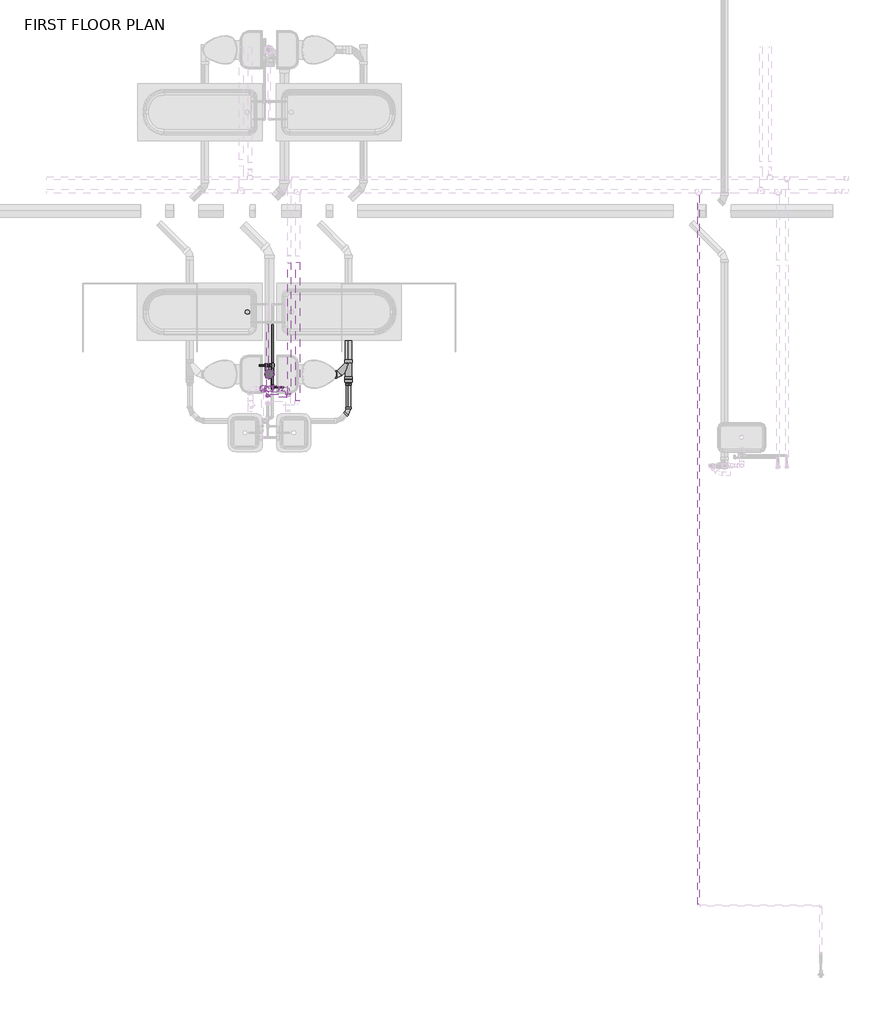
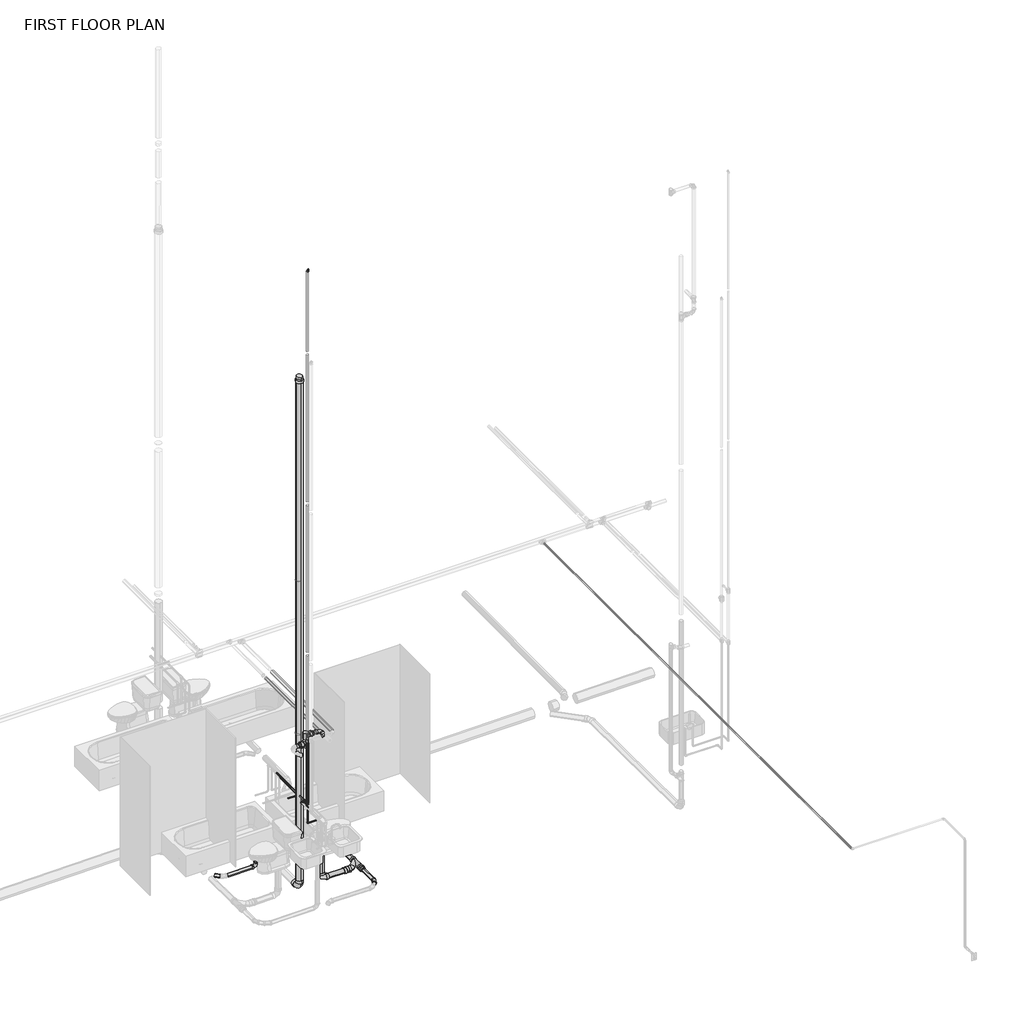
# One storey, part 6 of 29: 32 pipe fittings, 30 pipe segments.
"""IFC4 building model written with IfcOpenShell, lengths in millimetres."""

from ifc_helpers import new_model, si_unit, point, frame, frame_2d, origin, place, context, project, spatial, circle_curve, trimmed, segment, composite_curve, outline, extrude, transform, mapped, element, save
from components import bend_pvc_sch_40_dwv_standard_e287c2f6, bend_pvc_sch_40_dwv_standard_577ceb7d, bend_pvc_sch_40_dwv_standard_00a057dc, bend_pvc_sch_40_dwv_standard_020419e1, bend_pvc_sch_40_dwv_standard_48e93688, pipe_elbow_copper_k_557be1fc, pipe_elbow_copper_k_feaaf02c, pipe_elbow_copper_k_aad62f2d, pipe_tee_copper_k_7127fd44, pipe_tee_copper_k_ee363fbf, pipe_tee_copper_k_feafe2f1, pipe_tee_copper_k_8ae7f23d, pipe_tee_standard_047cd2b9, pipe_transition_copper_k_b4f16853, pipe_transition_copper_k_b63fd5dd, pipe_transition_copper_k_6d118978, pipe_transition_copper_k_614bbec4, reducer_pvc_sch_40_dwv_standard_464ee0c2, reducer_pvc_sch_40_dwv_standard_f8e5081b, reducer_pvc_sch_40_dwv_standard_091619c8, reducer_pvc_sch_40_dwv_standard_58c00515, standard_97f78eeb

model = new_model("IFC4")

# Units and contexts
model_context = context("Model", 3, world=origin())
ifc_project = project(units=[si_unit("LENGTHUNIT", "METRE", prefix="MILLI")], contexts=[model_context])

# Site, building, storey
site = spatial("IfcSite", under=ifc_project)
building = spatial("IfcBuilding", under=site)
storey = spatial("IfcBuildingStorey", under=building, Name="FIRST FLOOR PLAN", Elevation=0.0)

# Pipe fittings
placement = place(None, origin())
bend_pvc_sch_40_dwv_standard_shape = bend_pvc_sch_40_dwv_standard_e287c2f6(model_context)
element("IfcPipeFitting", 1, ObjectType="Bend - PVC - Sch 40 - DWV : Standard", at=placement, inside=storey, context=model_context, shape_type="MappedRepresentation", body=[
    mapped(bend_pvc_sch_40_dwv_standard_shape, transform((1823.8842845, 4156.8314746, -536.0576699), x_axis=(0.0, 0.0, -1.0), y_axis=(-1.0, 0.0, 0.0), z_axis=(0.0, 1.0, 0.0))),
])
bend_pvc_sch_40_dwv_standard_2_shape = bend_pvc_sch_40_dwv_standard_577ceb7d(model_context)
element("IfcPipeFitting", 2, ObjectType="Bend - PVC - Sch 40 - DWV : Standard", at=placement, inside=storey, context=model_context, shape_type="MappedRepresentation", body=[
    mapped(bend_pvc_sch_40_dwv_standard_2_shape, transform((3182.3208991, 2820.3533539, -501.633798), x_axis=(0.0, -0.9999457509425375, 0.010416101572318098), y_axis=(0.9999906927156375, -4.493975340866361e-05, -0.004314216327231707), z_axis=(0.004314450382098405, 0.010416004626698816, 0.9999364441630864))),
])
bend_pvc_sch_40_dwv_standard_3_shape = bend_pvc_sch_40_dwv_standard_00a057dc(model_context)
element("IfcPipeFitting", 3, ObjectType="Bend - PVC - Sch 40 - DWV : Standard", at=placement, inside=storey, context=model_context, shape_type="MappedRepresentation", body=[
    mapped(bend_pvc_sch_40_dwv_standard_3_shape, transform((2508.0645129, 3317.7848432, -502.4919405), x_axis=(0.0, -5.143823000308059e-07, -0.9999999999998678), y_axis=(-1.0, -5.358148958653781e-09, 0.0), z_axis=(-5.35814895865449e-09, 0.9999999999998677, -5.143823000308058e-07))),
])
bend_pvc_sch_40_dwv_standard_4_shape = bend_pvc_sch_40_dwv_standard_020419e1(model_context)
element("IfcPipeFitting", 4, ObjectType="Bend - PVC - Sch 40 - DWV : Standard", at=placement, inside=storey, context=model_context, shape_type="MappedRepresentation", body=[
    mapped(bend_pvc_sch_40_dwv_standard_4_shape, transform((2117.9058734, 3320.2843323, -535.2792916), x_axis=(0.0, 0.0, -1.0), y_axis=(0.0, -1.0, 0.0), z_axis=(-1.0, 0.0, 0.0))),
])
bend_pvc_sch_40_dwv_standard_5_shape = bend_pvc_sch_40_dwv_standard_48e93688(model_context)
element("IfcPipeFitting", 5, ObjectType="Bend - PVC - Sch 40 - DWV : Standard", at=placement, inside=storey, context=model_context, shape_type="MappedRepresentation", body=[
    mapped(bend_pvc_sch_40_dwv_standard_5_shape, transform((2372.3084875, 3124.1638117, 2451.0990858), x_axis=(0.9999989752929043, 0.0, -0.0014315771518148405), y_axis=(-1.2572891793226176e-08, 0.9999999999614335, -8.782538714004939e-06), z_axis=(0.0014315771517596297, 8.782547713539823e-06, 0.9999989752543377))),
])
element("IfcPipeFitting", 6, ObjectType="Bend - PVC - Sch 40 - DWV : Standard", at=placement, inside=storey, context=model_context, shape_type="MappedRepresentation", body=[
    mapped(bend_pvc_sch_40_dwv_standard_5_shape, transform((2372.3085485, 3124.2067027, 2451.1416909), x_axis=(0.9999989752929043, 0.0, -0.0014315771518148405), y_axis=(-1.2572891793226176e-08, 0.9999999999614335, -8.782538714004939e-06), z_axis=(0.0014315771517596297, 8.782547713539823e-06, 0.9999989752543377))),
])
pipe_elbow_copper_k_shape = pipe_elbow_copper_k_557be1fc(model_context)
element("IfcPipeFitting", 7, ObjectType="Pipe Elbow : Copper- K", at=placement, inside=storey, context=model_context, shape_type="MappedRepresentation", body=[
    mapped(pipe_elbow_copper_k_shape, transform((2383.8898661, 3029.9911151, 2413.0), x_axis=(1.0, 0.0, 0.0), y_axis=(0.0, 1.0, 0.0), z_axis=(0.0, 0.0, 1.0))),
])
pipe_elbow_copper_k_2_shape = pipe_elbow_copper_k_feaaf02c(model_context)
element("IfcPipeFitting", 8, ObjectType="Pipe Elbow : Copper- K", at=placement, inside=storey, context=model_context, shape_type="MappedRepresentation", body=[
    mapped(pipe_elbow_copper_k_2_shape, transform((2027.8209875, 3115.2451388, 1219.2), x_axis=(-1.0, 0.0, 0.0), y_axis=(0.0, -1.0, 0.0), z_axis=(0.0, 0.0, 1.0))),
])
element("IfcPipeFitting", 9, ObjectType="Pipe Elbow : Copper- K", at=placement, inside=storey, context=model_context, shape_type="MappedRepresentation", body=[
    mapped(pipe_elbow_copper_k_2_shape, transform((2096.0834875, 3029.9911151, 1219.2), x_axis=(0.0, -1.0, 0.0), y_axis=(0.0, 0.0, 1.0), z_axis=(-1.0, 0.0, 0.0))),
])
pipe_elbow_copper_k_3_shape = pipe_elbow_copper_k_aad62f2d(model_context)
element("IfcPipeFitting", 10, ObjectType="Pipe Elbow : Copper- K", at=placement, inside=storey, context=model_context, shape_type="MappedRepresentation", body=[
    mapped(pipe_elbow_copper_k_3_shape, transform((2096.0834875, 3029.9911151, 11328.4), x_axis=(0.0, 0.0, 1.0), y_axis=(1.0, 0.0, 0.0), z_axis=(0.0, 1.0, 0.0))),
])
element("IfcPipeFitting", 11, ObjectType="Pipe Elbow : Copper- K", at=placement, inside=storey, context=model_context, shape_type="MappedRepresentation", body=[
    mapped(pipe_elbow_copper_k_3_shape, transform((2159.5834875, 3144.8746817, 762.0), x_axis=(0.0, 0.0, -1.0), y_axis=(1.0, 0.0, 0.0), z_axis=(0.0, -1.0, 0.0))),
])
pipe_tee_copper_k_shape = pipe_tee_copper_k_7127fd44(model_context)
element("IfcPipeFitting", 12, ObjectType="Pipe Tee : Copper- K", at=placement, inside=storey, context=model_context, shape_type="MappedRepresentation", body=[
    mapped(pipe_tee_copper_k_shape, transform((2096.0834875, 3029.9911151, 2413.0), x_axis=(0.0, 0.0, -1.0), y_axis=(-1.0, 0.0, 0.0), z_axis=(0.0, 1.0, 0.0))),
])
pipe_tee_copper_k_2_shape = pipe_tee_copper_k_ee363fbf(model_context)
element("IfcPipeFitting", 13, ObjectType="Pipe Tee : Copper- K", at=placement, inside=storey, context=model_context, shape_type="MappedRepresentation", body=[
    mapped(pipe_tee_copper_k_2_shape, transform((2096.0834875, 3115.2451388, 1219.2), x_axis=(0.0, 1.0, 0.0), y_axis=(1.0, 0.0, 0.0), z_axis=(0.0, 0.0, -1.0))),
])
pipe_tee_copper_k_3_shape = pipe_tee_copper_k_feafe2f1(model_context)
element("IfcPipeFitting", 14, ObjectType="Pipe Tee : Copper- K", at=placement, inside=storey, context=model_context, shape_type="MappedRepresentation", body=[
    mapped(pipe_tee_copper_k_3_shape, transform((2159.5834875, 3144.8746817, 1117.6), x_axis=(0.0, -1.0, 0.0), y_axis=(0.0, 0.0, 1.0), z_axis=(-1.0, 0.0, 0.0))),
])
element("IfcPipeFitting", 15, ObjectType="Pipe Tee : Copper- K", at=placement, inside=storey, context=model_context, shape_type="MappedRepresentation", body=[
    mapped(pipe_tee_copper_k_3_shape, transform((2159.5834875, 3436.6777335, 1117.6), x_axis=(0.0, -1.0, 0.0), y_axis=(1.0, 0.0, 0.0), z_axis=(0.0, 0.0, 1.0))),
])
pipe_tee_copper_k_4_shape = pipe_tee_copper_k_8ae7f23d(model_context)
element("IfcPipeFitting", 16, ObjectType="Pipe Tee : Standard", at=placement, inside=storey, context=model_context, shape_type="MappedRepresentation", body=[
    mapped(pipe_tee_copper_k_4_shape, transform((2118.30848, 3124.1638117, 2298.6990858), x_axis=(0.0, 0.0, 1.0), y_axis=(-1.0, 0.0, 0.0), z_axis=(0.0, -1.0, 0.0))),
])
element("IfcPipeFitting", 17, ObjectType="Pipe Tee : Standard", at=placement, inside=storey, context=model_context, shape_type="MappedRepresentation", body=[
    mapped(pipe_tee_copper_k_4_shape, transform((2111.7559337, 3124.1638117, 2298.6990858), x_axis=(0.0, 0.0, 1.0), y_axis=(-1.0, 0.0, 0.0), z_axis=(0.0, -1.0, 0.0))),
])
pipe_tee_standard_shape = pipe_tee_standard_047cd2b9(model_context)
element("IfcPipeFitting", 18, ObjectType="Pipe Tee : Standard", at=placement, inside=storey, context=model_context, shape_type="MappedRepresentation", body=[
    mapped(pipe_tee_standard_shape, transform((2118.30848, 3124.1638117, 2451.4627068), x_axis=(0.0, 0.0, 1.0), y_axis=(1.0, 0.0, 0.0), z_axis=(0.0, 1.0, 0.0))),
])
element("IfcPipeFitting", 19, ObjectType="Pipe Tee : Standard", at=placement, inside=storey, context=model_context, shape_type="MappedRepresentation", body=[
    mapped(pipe_tee_standard_shape, transform((2111.7559337, 3124.1638117, 2451.4627068), x_axis=(0.0, 0.0, 1.0), y_axis=(1.0, 0.0, 0.0), z_axis=(0.0, 1.0, 0.0))),
])
pipe_transition_copper_k_shape = pipe_transition_copper_k_b4f16853(model_context)
element("IfcPipeFitting", 20, ObjectType="Pipe Transition : Copper- K", at=placement, inside=storey, context=model_context, shape_type="MappedRepresentation", body=[
    mapped(pipe_transition_copper_k_shape, transform((2159.5834875, 3466.8402335, 1117.6), x_axis=(0.0, 1.0, 0.0), y_axis=(-1.0, 0.0, 0.0), z_axis=(0.0, 0.0, 1.0))),
])
pipe_transition_copper_k_2_shape = pipe_transition_copper_k_b63fd5dd(model_context)
element("IfcPipeFitting", 21, ObjectType="Pipe Transition : Copper- K", at=placement, inside=storey, context=model_context, shape_type="MappedRepresentation", body=[
    mapped(pipe_transition_copper_k_2_shape, transform((2159.5834875, 3144.8746817, 1087.4375), x_axis=(0.0, 0.0, -1.0), y_axis=(0.0, 1.0, 0.0), z_axis=(1.0, 0.0, 0.0))),
])
element("IfcPipeFitting", 22, ObjectType="Pipe Transition : Copper- K", at=placement, inside=storey, context=model_context, shape_type="MappedRepresentation", body=[
    mapped(pipe_transition_copper_k_2_shape, transform((2129.4209875, 3436.6777335, 1117.6), x_axis=(-1.0, 0.0, 0.0), y_axis=(0.0, -1.0, 0.0), z_axis=(0.0, 0.0, 1.0))),
])
pipe_transition_copper_k_3_shape = pipe_transition_copper_k_6d118978(model_context)
element("IfcPipeFitting", 23, ObjectType="Pipe Transition : Copper- K", at=placement, inside=storey, context=model_context, shape_type="MappedRepresentation", body=[
    mapped(pipe_transition_copper_k_3_shape, transform((2096.0834875, 3029.9911151, 11300.61875), x_axis=(0.0, 0.0, 1.0), y_axis=(0.0, 1.0, 0.0), z_axis=(-1.0, 0.0, 0.0))),
])
pipe_transition_copper_k_4_shape = pipe_transition_copper_k_614bbec4(model_context)
element("IfcPipeFitting", 24, ObjectType="Pipe Transition : Copper- K", at=placement, inside=storey, context=model_context, shape_type="MappedRepresentation", body=[
    mapped(pipe_transition_copper_k_4_shape, transform((2096.0834875, 3029.9911151, 1239.8375), x_axis=(0.0, 0.0, 1.0), y_axis=(0.0, -1.0, 0.0), z_axis=(1.0, 0.0, 0.0))),
])
reducer_pvc_sch_40_dwv_standard_shape = reducer_pvc_sch_40_dwv_standard_464ee0c2(model_context)
element("IfcPipeFitting", 25, ObjectType="Reducer - PVC - Sch 40 - DWV : Standard", at=placement, inside=storey, context=model_context, shape_type="MappedRepresentation", body=[
    mapped(reducer_pvc_sch_40_dwv_standard_shape, transform((2062.74598, 3124.1638117, 2298.6990858), x_axis=(-1.0, 0.0, 0.0), y_axis=(0.0, -1.0, 0.0), z_axis=(0.0, 0.0, 1.0))),
])
element("IfcPipeFitting", 26, ObjectType="Reducer - PVC - Sch 40 - DWV : Standard", at=placement, inside=storey, context=model_context, shape_type="MappedRepresentation", body=[
    mapped(reducer_pvc_sch_40_dwv_standard_shape, transform((2173.8709231, 3124.1638117, 2451.3831648), x_axis=(0.9999989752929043, 0.0, -0.001431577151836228), y_axis=(0.0, 1.0000000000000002, 0.0), z_axis=(0.001431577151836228, 0.0, 0.9999989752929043))),
])
element("IfcPipeFitting", 27, ObjectType="Reducer - PVC - Sch 40 - DWV : Standard", at=placement, inside=storey, context=model_context, shape_type="MappedRepresentation", body=[
    mapped(reducer_pvc_sch_40_dwv_standard_shape, transform((2056.1934337, 3124.1638117, 2298.6990858), x_axis=(-1.0, 0.0, 0.0), y_axis=(0.0, -1.0, 0.0), z_axis=(0.0, 0.0, 1.0))),
])
element("IfcPipeFitting", 28, ObjectType="Reducer - PVC - Sch 40 - DWV : Standard", at=placement, inside=storey, context=model_context, shape_type="MappedRepresentation", body=[
    mapped(reducer_pvc_sch_40_dwv_standard_shape, transform((2167.3183768, 3124.1638117, 2451.3831648), x_axis=(0.9999989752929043, 0.0, -0.001431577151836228), y_axis=(0.0, 1.0000000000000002, 0.0), z_axis=(0.001431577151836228, 0.0, 0.9999989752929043))),
])
reducer_pvc_sch_40_dwv_standard_2_shape = reducer_pvc_sch_40_dwv_standard_f8e5081b(model_context)
element("IfcPipeFitting", 29, ObjectType="Reducer - PVC - Sch 40 - DWV : Standard", at=placement, inside=storey, context=model_context, shape_type="MappedRepresentation", body=[
    mapped(reducer_pvc_sch_40_dwv_standard_2_shape, transform((3182.3208991, 3250.689748, -506.1164688), x_axis=(0.0, -0.9999457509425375, 0.010416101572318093), y_axis=(0.9999457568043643, -0.00010848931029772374, -0.010414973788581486), z_axis=(0.01041553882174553, 0.010415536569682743, 0.999891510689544))),
])
reducer_pvc_sch_40_dwv_standard_3_shape = reducer_pvc_sch_40_dwv_standard_091619c8(model_context)
element("IfcPipeFitting", 30, ObjectType="Reducer - PVC - Sch 40 - DWV : Standard", at=placement, inside=storey, context=model_context, shape_type="MappedRepresentation", body=[
    mapped(reducer_pvc_sch_40_dwv_standard_3_shape, transform((2984.6942198, 3317.7848253, -504.7567642), x_axis=(-0.9999457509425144, 2.1621181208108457e-07, 0.01041610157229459), y_axis=(0.00010827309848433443, -0.9999457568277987, 0.010414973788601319), z_axis=(0.010415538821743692, 0.010415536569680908, 0.9998915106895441))),
])
reducer_pvc_sch_40_dwv_standard_4_shape = reducer_pvc_sch_40_dwv_standard_58c00515(model_context)
element("IfcPipeFitting", 31, ObjectType="Reducer - PVC - Sch 40 - DWV : Standard", at=placement, inside=storey, context=model_context, shape_type="MappedRepresentation", body=[
    mapped(reducer_pvc_sch_40_dwv_standard_4_shape, transform((2117.9266198, 3321.8387881, 9032.4261106), x_axis=(6.185067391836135e-08, 0.0, 0.9999999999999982), y_axis=(-0.9999999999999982, 0.0, 6.185067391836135e-08), z_axis=(0.0, -1.0, 0.0))),
])
standard_shape = standard_97f78eeb(model_context)
element("IfcPipeFitting", 32, ObjectType="GES Wye Combination with 8th Bend - PVC - Sch 40 - DWV : Standard", at=placement, inside=storey, context=model_context, shape_type="MappedRepresentation", body=[
    mapped(standard_shape, transform((3182.3208991, 3317.7847826, -506.8153754), x_axis=(0.0, -0.9999457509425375, 0.010416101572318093), y_axis=(-0.9999457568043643, 0.00010848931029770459, 0.010414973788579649), z_axis=(-0.010415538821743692, -0.010415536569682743, -0.999891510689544))),
])

# Pipe segments
element("IfcPipeSegment", 33, ObjectType="Copper", at=placement, inside=storey, context=model_context, shape_type="SweptSolid", body=[
    extrude(outline(composite_curve([segment(trimmed(circle_curve(frame_2d((2413.0, 2383.8898661)), 20.6375), [point((2413.0, 2363.2523661))], [point((2392.3625, 2383.8898661))], False, "CARTESIAN"), True, "CONTINUOUS"), segment(trimmed(circle_curve(frame_2d((2413.0, 2383.8898661)), 20.6375), [point((2392.3625, 2383.8898661))], [point((2413.0, 2404.5273661))], False, "CARTESIAN"), True, "CONTINUOUS"), segment(trimmed(circle_curve(frame_2d((2413.0, 2383.8898661)), 20.6375), [point((2413.0, 2404.5273661))], [point((2433.6375, 2383.8898661))], False, "CARTESIAN"), True, "CONTINUOUS"), segment(trimmed(circle_curve(frame_2d((2413.0, 2383.8898661)), 20.6375), [point((2433.6375, 2383.8898661))], [point((2413.0, 2363.2523661))], False, "CARTESIAN"), True, "CONTINUOUS")], self_intersect=False)), frame((0.0, 3060.1536151, 0.0), z_axis=(0.0, 1.0, 0.0), x_axis=(0.0, 0.0, 1.0)), (0.0, 0.0, 1.0), 1759.051298),
])
element("IfcPipeSegment", 34, ObjectType="Copper", at=placement, inside=storey, context=model_context, shape_type="SweptSolid", body=[
    extrude(outline(composite_curve([segment(trimmed(circle_curve(frame_2d((2490.6882812, 2499.3084875)), 26.9875), [point((2490.6882812, 2472.3209875))], [point((2463.7007812, 2499.3084875))], False, "CARTESIAN"), True, "CONTINUOUS"), segment(trimmed(circle_curve(frame_2d((2490.6882812, 2499.3084875)), 26.9875), [point((2463.7007812, 2499.3084875))], [point((2490.6882812, 2526.2959875))], False, "CARTESIAN"), True, "CONTINUOUS"), segment(trimmed(circle_curve(frame_2d((2490.6882812, 2499.3084875)), 26.9875), [point((2490.6882812, 2526.2959875))], [point((2517.6757812, 2499.3084875))], False, "CARTESIAN"), True, "CONTINUOUS"), segment(trimmed(circle_curve(frame_2d((2490.6882812, 2499.3084875)), 26.9875), [point((2517.6757812, 2499.3084875))], [point((2490.6882812, 2472.3209875))], False, "CARTESIAN"), True, "CONTINUOUS")], self_intersect=False)), frame((0.0, 2965.911477, 0.0), z_axis=(0.0, 1.0, 0.0), x_axis=(0.0, 0.0, 1.0)), (0.0, 0.0, 1.0), 1860.040311),
])
element("IfcPipeSegment", 35, ObjectType="Copper", at=placement, inside=storey, context=model_context, shape_type="SweptSolid", body=[
    extrude(outline(composite_curve([segment(trimmed(circle_curve(frame_2d((3029.9911151, 2413.0)), 20.6375), [point((3050.6286151, 2413.0))], [point((3029.9911151, 2392.3625))], False, "CARTESIAN"), True, "CONTINUOUS"), segment(trimmed(circle_curve(frame_2d((3029.9911151, 2413.0)), 20.6375), [point((3029.9911151, 2392.3625))], [point((3009.3536151, 2413.0))], False, "CARTESIAN"), True, "CONTINUOUS"), segment(trimmed(circle_curve(frame_2d((3029.9911151, 2413.0)), 20.6375), [point((3009.3536151, 2413.0))], [point((3029.9911151, 2433.6375))], False, "CARTESIAN"), True, "CONTINUOUS"), segment(trimmed(circle_curve(frame_2d((3029.9911151, 2413.0)), 20.6375), [point((3029.9911151, 2433.6375))], [point((3050.6286151, 2413.0))], False, "CARTESIAN"), True, "CONTINUOUS")], self_intersect=False)), frame((2132.5959875, 0.0, 0.0), z_axis=(1.0, 0.0, 0.0), x_axis=(0.0, 1.0, 0.0)), (0.0, 0.0, 1.0), 221.1313786),
])
element("IfcPipeSegment", 36, ObjectType="Copper", at=placement, inside=storey, context=model_context, shape_type="SweptSolid", body=[
    extrude(outline(composite_curve([segment(trimmed(circle_curve(frame_2d((2096.0834875, 3029.9911151)), 20.6375), [point((2075.4459875, 3029.9911151))], [point((2096.0834875, 3050.6286151))], False, "CARTESIAN"), True, "CONTINUOUS"), segment(trimmed(circle_curve(frame_2d((2096.0834875, 3029.9911151)), 20.6375), [point((2096.0834875, 3050.6286151))], [point((2116.7209875, 3029.9911151))], False, "CARTESIAN"), True, "CONTINUOUS"), segment(trimmed(circle_curve(frame_2d((2096.0834875, 3029.9911151)), 20.6375), [point((2116.7209875, 3029.9911151))], [point((2096.0834875, 3009.3536151))], False, "CARTESIAN"), True, "CONTINUOUS"), segment(trimmed(circle_curve(frame_2d((2096.0834875, 3029.9911151)), 20.6375), [point((2096.0834875, 3009.3536151))], [point((2075.4459875, 3029.9911151))], False, "CARTESIAN"), True, "CONTINUOUS")], self_intersect=False)), frame((0.0, 0.0, 9790.1125), z_axis=(0.0, 0.0, 1.0), x_axis=(1.0, 0.0, 0.0)), (0.0, 0.0, 1.0), 1510.50625),
])
element("IfcPipeSegment", 37, ObjectType="Copper", at=placement, inside=storey, context=model_context, shape_type="SweptSolid", body=[
    extrude(outline(composite_curve([segment(trimmed(circle_curve(frame_2d((2490.6882813, 7886.7826705)), 11.1125), [point((2490.6882813, 7875.6701705))], [point((2479.5757813, 7886.7826705))], False, "CARTESIAN"), True, "CONTINUOUS"), segment(trimmed(circle_curve(frame_2d((2490.6882813, 7886.7826705)), 11.1125), [point((2479.5757813, 7886.7826705))], [point((2490.6882813, 7897.8951705))], False, "CARTESIAN"), True, "CONTINUOUS"), segment(trimmed(circle_curve(frame_2d((2490.6882813, 7886.7826705)), 11.1125), [point((2490.6882813, 7897.8951705))], [point((2501.8007813, 7886.7826705))], False, "CARTESIAN"), True, "CONTINUOUS"), segment(trimmed(circle_curve(frame_2d((2490.6882813, 7886.7826705)), 11.1125), [point((2501.8007813, 7886.7826705))], [point((2490.6882813, 7875.6701705))], False, "CARTESIAN"), True, "CONTINUOUS")], self_intersect=False)), frame((0.0, -3802.3449619, 0.0), z_axis=(0.0, 1.0, 0.0), x_axis=(0.0, 0.0, 1.0)), (0.0, 0.0, 1.0), 9524.20625),
])
element("IfcPipeSegment", 38, ObjectType="Copper", at=placement, inside=storey, context=model_context, shape_type="SweptSolid", body=[
    extrude(outline(composite_curve([segment(trimmed(circle_curve(frame_2d((2096.0834875, 3029.9911151)), 20.6375), [point((2075.4459875, 3029.9911151))], [point((2096.0834875, 3050.6286151))], False, "CARTESIAN"), True, "CONTINUOUS"), segment(trimmed(circle_curve(frame_2d((2096.0834875, 3029.9911151)), 20.6375), [point((2096.0834875, 3050.6286151))], [point((2116.7209875, 3029.9911151))], False, "CARTESIAN"), True, "CONTINUOUS"), segment(trimmed(circle_curve(frame_2d((2096.0834875, 3029.9911151)), 20.6375), [point((2116.7209875, 3029.9911151))], [point((2096.0834875, 3009.3536151))], False, "CARTESIAN"), True, "CONTINUOUS"), segment(trimmed(circle_curve(frame_2d((2096.0834875, 3029.9911151)), 20.6375), [point((2096.0834875, 3009.3536151))], [point((2075.4459875, 3029.9911151))], False, "CARTESIAN"), True, "CONTINUOUS")], self_intersect=False)), frame((0.0, 0.0, 2449.5125), z_axis=(0.0, 0.0, 1.0), x_axis=(1.0, 0.0, 0.0)), (0.0, 0.0, 1.0), 1577.975),
])
element("IfcPipeSegment", 39, ObjectType="Copper", at=placement, inside=storey, context=model_context, shape_type="SweptSolid", body=[
    extrude(outline(composite_curve([segment(trimmed(circle_curve(frame_2d((3115.2451388, 1219.2)), 11.1125), [point((3104.1326388, 1219.2))], [point((3115.2451388, 1230.3125))], False, "CARTESIAN"), True, "CONTINUOUS"), segment(trimmed(circle_curve(frame_2d((3115.2451388, 1219.2)), 11.1125), [point((3115.2451388, 1230.3125))], [point((3126.3576388, 1219.2))], False, "CARTESIAN"), True, "CONTINUOUS"), segment(trimmed(circle_curve(frame_2d((3115.2451388, 1219.2)), 11.1125), [point((3126.3576388, 1219.2))], [point((3115.2451388, 1208.0875))], False, "CARTESIAN"), True, "CONTINUOUS"), segment(trimmed(circle_curve(frame_2d((3115.2451388, 1219.2)), 11.1125), [point((3115.2451388, 1208.0875))], [point((3104.1326388, 1219.2))], False, "CARTESIAN"), True, "CONTINUOUS")], self_intersect=False)), frame((2048.4584875, 0.0, 0.0), z_axis=(1.0, 0.0, 0.0), x_axis=(0.0, 1.0, 0.0)), (0.0, 0.0, 1.0), 20.6375),
])
element("IfcPipeSegment", 40, ObjectType="Copper", at=placement, inside=storey, context=model_context, shape_type="SweptSolid", body=[
    extrude(outline(composite_curve([segment(trimmed(circle_curve(frame_2d((3144.8746817, 762.0)), 7.9375), [point((3136.9371817, 762.0))], [point((3144.8746817, 769.9375))], False, "CARTESIAN"), True, "CONTINUOUS"), segment(trimmed(circle_curve(frame_2d((3144.8746817, 762.0)), 7.9375), [point((3144.8746817, 769.9375))], [point((3152.8121817, 762.0))], False, "CARTESIAN"), True, "CONTINUOUS"), segment(trimmed(circle_curve(frame_2d((3144.8746817, 762.0)), 7.9375), [point((3152.8121817, 762.0))], [point((3144.8746817, 754.0625))], False, "CARTESIAN"), True, "CONTINUOUS"), segment(trimmed(circle_curve(frame_2d((3144.8746817, 762.0)), 7.9375), [point((3144.8746817, 754.0625))], [point((3136.9371817, 762.0))], False, "CARTESIAN"), True, "CONTINUOUS")], self_intersect=False)), frame((2177.0459875, 0.0, 0.0), z_axis=(1.0, 0.0, 0.0), x_axis=(0.0, 1.0, 0.0)), (0.0, 0.0, 1.0), 134.9375),
])
element("IfcPipeSegment", 41, ObjectType="Copper", at=placement, inside=storey, context=model_context, shape_type="SweptSolid", body=[
    extrude(outline(composite_curve([segment(trimmed(circle_curve(frame_2d((2159.5834875, 3144.8746817)), 7.9375), [point((2167.5209875, 3144.8746817))], [point((2159.5834875, 3136.9371817))], False, "CARTESIAN"), True, "CONTINUOUS"), segment(trimmed(circle_curve(frame_2d((2159.5834875, 3144.8746817)), 7.9375), [point((2159.5834875, 3136.9371817))], [point((2151.6459875, 3144.8746817))], False, "CARTESIAN"), True, "CONTINUOUS"), segment(trimmed(circle_curve(frame_2d((2159.5834875, 3144.8746817)), 7.9375), [point((2151.6459875, 3144.8746817))], [point((2159.5834875, 3152.8121817))], False, "CARTESIAN"), True, "CONTINUOUS"), segment(trimmed(circle_curve(frame_2d((2159.5834875, 3144.8746817)), 7.9375), [point((2159.5834875, 3152.8121817))], [point((2167.5209875, 3144.8746817))], False, "CARTESIAN"), True, "CONTINUOUS")], self_intersect=False)), frame((0.0, 0.0, 779.4625), z_axis=(0.0, 0.0, 1.0), x_axis=(1.0, 0.0, 0.0)), (0.0, 0.0, 1.0), 300.83125),
])
element("IfcPipeSegment", 42, ObjectType="Copper", at=placement, inside=storey, context=model_context, shape_type="SweptSolid", body=[
    extrude(outline(composite_curve([segment(trimmed(circle_curve(frame_2d((3436.6777335, 1117.6)), 7.9375), [point((3444.6152335, 1117.6))], [point((3436.6777335, 1109.6625))], False, "CARTESIAN"), True, "CONTINUOUS"), segment(trimmed(circle_curve(frame_2d((3436.6777335, 1117.6)), 7.9375), [point((3436.6777335, 1109.6625))], [point((3428.7402335, 1117.6))], False, "CARTESIAN"), True, "CONTINUOUS"), segment(trimmed(circle_curve(frame_2d((3436.6777335, 1117.6)), 7.9375), [point((3428.7402335, 1117.6))], [point((3436.6777335, 1125.5375))], False, "CARTESIAN"), True, "CONTINUOUS"), segment(trimmed(circle_curve(frame_2d((3436.6777335, 1117.6)), 7.9375), [point((3436.6777335, 1125.5375))], [point((3444.6152335, 1117.6))], False, "CARTESIAN"), True, "CONTINUOUS")], self_intersect=False)), frame((1981.7834875, 0.0, 0.0), z_axis=(1.0, 0.0, 0.0), x_axis=(0.0, 1.0, 0.0)), (0.0, 0.0, 1.0), 140.49375),
])
element("IfcPipeSegment", 43, ObjectType="Copper", at=placement, inside=storey, context=model_context, shape_type="SweptSolid", body=[
    extrude(outline(composite_curve([segment(trimmed(circle_curve(frame_2d((1117.6, 2159.5834875)), 14.2875), [point((1117.6, 2173.8709875))], [point((1131.8875, 2159.5834875))], False, "CARTESIAN"), True, "CONTINUOUS"), segment(trimmed(circle_curve(frame_2d((1117.6, 2159.5834875)), 14.2875), [point((1131.8875, 2159.5834875))], [point((1117.6, 2145.2959875))], False, "CARTESIAN"), True, "CONTINUOUS"), segment(trimmed(circle_curve(frame_2d((1117.6, 2159.5834875)), 14.2875), [point((1117.6, 2145.2959875))], [point((1103.3125, 2159.5834875))], False, "CARTESIAN"), True, "CONTINUOUS"), segment(trimmed(circle_curve(frame_2d((1117.6, 2159.5834875)), 14.2875), [point((1103.3125, 2159.5834875))], [point((1117.6, 2173.8709875))], False, "CARTESIAN"), True, "CONTINUOUS")], self_intersect=False)), frame((0.0, 3175.0371817, 0.0), z_axis=(0.0, 1.0, 0.0), x_axis=(0.0, 0.0, 1.0)), (0.0, 0.0, 1.0), 231.4780518),
])
element("IfcPipeSegment", 44, ObjectType="Copper", at=placement, inside=storey, context=model_context, shape_type="SweptSolid", body=[
    extrude(outline(composite_curve([segment(trimmed(circle_curve(frame_2d((1117.6, 2159.5834875)), 11.1125), [point((1117.6, 2170.6959875))], [point((1128.7125, 2159.5834875))], False, "CARTESIAN"), True, "CONTINUOUS"), segment(trimmed(circle_curve(frame_2d((1117.6, 2159.5834875)), 11.1125), [point((1128.7125, 2159.5834875))], [point((1117.6, 2148.4709875))], False, "CARTESIAN"), True, "CONTINUOUS"), segment(trimmed(circle_curve(frame_2d((1117.6, 2159.5834875)), 11.1125), [point((1117.6, 2148.4709875))], [point((1106.4875, 2159.5834875))], False, "CARTESIAN"), True, "CONTINUOUS"), segment(trimmed(circle_curve(frame_2d((1117.6, 2159.5834875)), 11.1125), [point((1106.4875, 2159.5834875))], [point((1117.6, 2170.6959875))], False, "CARTESIAN"), True, "CONTINUOUS")], self_intersect=False)), frame((0.0, 3473.9839835, 0.0), z_axis=(0.0, 1.0, 0.0), x_axis=(0.0, 0.0, 1.0)), (0.0, 0.0, 1.0), 517.2338736),
])
element("IfcPipeSegment", 45, ObjectType="Copper", at=placement, inside=storey, context=model_context, shape_type="SweptSolid", body=[
    extrude(outline(composite_curve([segment(trimmed(circle_curve(frame_2d((0.0, -11.1125)), 11.1125), [point((0.0, 0.0))], [point((11.1125, -11.1125))], False, "CARTESIAN"), True, "CONTINUOUS"), segment(trimmed(circle_curve(frame_2d((0.0, -11.1125)), 11.1125), [point((11.1125, -11.1125))], [point((0.0, -22.225))], False, "CARTESIAN"), True, "CONTINUOUS"), segment(trimmed(circle_curve(frame_2d((0.0, -11.1125)), 11.1125), [point((0.0, -22.225))], [point((-11.1125, -11.1125))], False, "CARTESIAN"), True, "CONTINUOUS"), segment(trimmed(circle_curve(frame_2d((0.0, -11.1125)), 11.1125), [point((-11.1125, -11.1125))], [point((0.0, 0.0))], False, "CARTESIAN"), True, "CONTINUOUS")], self_intersect=False)), frame((2084.9709875, 3050.6286151, 1219.2), z_axis=(1.778386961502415e-12, 1.0, 0.0), x_axis=(0.0, 0.0, -1.0)), (0.0, 0.0, 1.0), 37.6290237),
])
element("IfcPipeSegment", 46, ObjectType="Copper", at=placement, inside=storey, context=model_context, shape_type="SweptSolid", body=[
    extrude(outline(composite_curve([segment(trimmed(circle_curve(frame_2d((1219.2, 2096.0834875)), 11.1125), [point((1219.2, 2084.9709875))], [point((1208.0875, 2096.0834875))], False, "CARTESIAN"), True, "CONTINUOUS"), segment(trimmed(circle_curve(frame_2d((1219.2, 2096.0834875)), 11.1125), [point((1208.0875, 2096.0834875))], [point((1219.2, 2107.1959875))], False, "CARTESIAN"), True, "CONTINUOUS"), segment(trimmed(circle_curve(frame_2d((1219.2, 2096.0834875)), 11.1125), [point((1219.2, 2107.1959875))], [point((1230.3125, 2096.0834875))], False, "CARTESIAN"), True, "CONTINUOUS"), segment(trimmed(circle_curve(frame_2d((1219.2, 2096.0834875)), 11.1125), [point((1230.3125, 2096.0834875))], [point((1219.2, 2084.9709875))], False, "CARTESIAN"), True, "CONTINUOUS")], self_intersect=False)), frame((0.0, 3142.2326388, 0.0), z_axis=(0.0, 1.0, 0.0), x_axis=(0.0, 0.0, 1.0)), (0.0, 0.0, 1.0), 848.9852183),
])
element("IfcPipeSegment", 47, ObjectType="Copper", at=placement, inside=storey, context=model_context, shape_type="SweptSolid", body=[
    extrude(outline(composite_curve([segment(trimmed(circle_curve(frame_2d((2096.0834875, 3029.9911151)), 20.6375), [point((2075.4459875, 3029.9911151))], [point((2096.0834875, 3050.6286151))], False, "CARTESIAN"), True, "CONTINUOUS"), segment(trimmed(circle_curve(frame_2d((2096.0834875, 3029.9911151)), 20.6375), [point((2096.0834875, 3050.6286151))], [point((2116.7209875, 3029.9911151))], False, "CARTESIAN"), True, "CONTINUOUS"), segment(trimmed(circle_curve(frame_2d((2096.0834875, 3029.9911151)), 20.6375), [point((2116.7209875, 3029.9911151))], [point((2096.0834875, 3009.3536151))], False, "CARTESIAN"), True, "CONTINUOUS"), segment(trimmed(circle_curve(frame_2d((2096.0834875, 3029.9911151)), 20.6375), [point((2096.0834875, 3009.3536151))], [point((2075.4459875, 3029.9911151))], False, "CARTESIAN"), True, "CONTINUOUS")], self_intersect=False)), frame((0.0, 0.0, 1244.996875), z_axis=(0.0, 0.0, 1.0), x_axis=(1.0, 0.0, 0.0)), (0.0, 0.0, 1.0), 1131.490625),
])
element("IfcPipeSegment", 48, ObjectType="Copper", at=placement, inside=storey, context=model_context, shape_type="SweptSolid", body=[
    extrude(outline(composite_curve([segment(trimmed(circle_curve(frame_2d((2096.0834875, 3029.9911151)), 20.6375), [point((2075.4459875, 3029.9911151))], [point((2096.0834875, 3050.6286151))], False, "CARTESIAN"), True, "CONTINUOUS"), segment(trimmed(circle_curve(frame_2d((2096.0834875, 3029.9911151)), 20.6375), [point((2096.0834875, 3050.6286151))], [point((2116.7209875, 3029.9911151))], False, "CARTESIAN"), True, "CONTINUOUS"), segment(trimmed(circle_curve(frame_2d((2096.0834875, 3029.9911151)), 20.6375), [point((2116.7209875, 3029.9911151))], [point((2096.0834875, 3009.3536151))], False, "CARTESIAN"), True, "CONTINUOUS"), segment(trimmed(circle_curve(frame_2d((2096.0834875, 3029.9911151)), 20.6375), [point((2096.0834875, 3009.3536151))], [point((2075.4459875, 3029.9911151))], False, "CARTESIAN"), True, "CONTINUOUS")], self_intersect=False)), frame((0.0, 0.0, 4100.5125), z_axis=(0.0, 0.0, 1.0), x_axis=(1.0, 0.0, 0.0)), (0.0, 0.0, 1.0), 2771.775),
])
element("IfcPipeSegment", 49, ObjectType="Copper", at=placement, inside=storey, context=model_context, shape_type="SweptSolid", body=[
    extrude(outline(composite_curve([segment(trimmed(circle_curve(frame_2d((2096.0834875, 3029.9911151)), 20.6375), [point((2075.4459875, 3029.9911151))], [point((2096.0834875, 3050.6286151))], False, "CARTESIAN"), True, "CONTINUOUS"), segment(trimmed(circle_curve(frame_2d((2096.0834875, 3029.9911151)), 20.6375), [point((2096.0834875, 3050.6286151))], [point((2116.7209875, 3029.9911151))], False, "CARTESIAN"), True, "CONTINUOUS"), segment(trimmed(circle_curve(frame_2d((2096.0834875, 3029.9911151)), 20.6375), [point((2116.7209875, 3029.9911151))], [point((2096.0834875, 3009.3536151))], False, "CARTESIAN"), True, "CONTINUOUS"), segment(trimmed(circle_curve(frame_2d((2096.0834875, 3029.9911151)), 20.6375), [point((2096.0834875, 3009.3536151))], [point((2075.4459875, 3029.9911151))], False, "CARTESIAN"), True, "CONTINUOUS")], self_intersect=False)), frame((0.0, 0.0, 6945.3125), z_axis=(0.0, 0.0, 1.0), x_axis=(1.0, 0.0, 0.0)), (0.0, 0.0, 1.0), 2771.775),
])
element("IfcPipeSegment", 50, ObjectType="PVC - SAN/STORM", at=placement, inside=storey, context=model_context, shape_type="SweptSolid", body=[
    extrude(outline(composite_curve([segment(trimmed(circle_curve(frame_2d((0.0, -44.45)), 44.45), [point((-44.45, -44.4500154))], [point((-1.53e-05, 0.0))], False, "CARTESIAN"), True, "CONTINUOUS"), segment(trimmed(circle_curve(frame_2d((0.0, -44.45)), 44.45), [point((-1.53e-05, 0.0))], [point((44.4500001, -44.4499846))], False, "CARTESIAN"), True, "CONTINUOUS"), segment(trimmed(circle_curve(frame_2d((0.0, -44.45)), 44.45), [point((44.4500001, -44.4499846))], [point((1.54e-05, -88.9))], False, "CARTESIAN"), True, "CONTINUOUS"), segment(trimmed(circle_curve(frame_2d((0.0, -44.45)), 44.45), [point((1.54e-05, -88.9))], [point((-44.45, -44.4500154))], False, "CARTESIAN"), True, "CONTINUOUS")], self_intersect=False)), frame((2508.0645129, 3273.3349105, -386.6178994), z_axis=(-0.0005876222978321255, -0.0005885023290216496, 0.9999996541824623), x_axis=(-0.9999998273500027, 3.458171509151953e-07, -0.0005876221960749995)), (0.0, 0.0, 1.0), 439.385923),
])
element("IfcPipeSegment", 51, ObjectType="PVC - SAN/STORM", at=placement, inside=storey, context=model_context, shape_type="SweptSolid", body=[
    extrude(outline(composite_curve([segment(trimmed(circle_curve(frame_2d((0.0, -44.45)), 44.45), [point((0.0, -88.9))], [point((-44.45, -44.45))], False, "CARTESIAN"), True, "CONTINUOUS"), segment(trimmed(circle_curve(frame_2d((0.0, -44.45)), 44.45), [point((-44.45, -44.45))], [point((0.0, 0.0))], False, "CARTESIAN"), True, "CONTINUOUS"), segment(trimmed(circle_curve(frame_2d((0.0, -44.45)), 44.45), [point((0.0, 0.0))], [point((44.4500001, -44.45))], False, "CARTESIAN"), True, "CONTINUOUS"), segment(trimmed(circle_curve(frame_2d((0.0, -44.45)), 44.45), [point((44.4500001, -44.45))], [point((0.0, -88.9))], False, "CARTESIAN"), True, "CONTINUOUS")], self_intersect=False)), frame((2901.8784948, 3362.2348432, -506.5941695), z_axis=(-0.9999457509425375, 0.0, 0.010416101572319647), x_axis=(0.010416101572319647, 0.0, 0.9999457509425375)), (0.0, 0.0, 1.0), 277.9351471),
])
element("IfcPipeSegment", 52, ObjectType="PVC - SAN/STORM", at=placement, inside=storey, context=model_context, shape_type="SweptSolid", body=[
    extrude(outline(composite_curve([segment(trimmed(circle_curve(frame_2d((0.0, -30.1625001)), 30.1625), [point((30.1625, -30.1625001))], [point((0.0, -60.3250001))], False, "CARTESIAN"), True, "CONTINUOUS"), segment(trimmed(circle_curve(frame_2d((0.0, -30.1625001)), 30.1625), [point((0.0, -60.3250001))], [point((-30.1625, -30.1625001))], False, "CARTESIAN"), True, "CONTINUOUS"), segment(trimmed(circle_curve(frame_2d((0.0, -30.1625001)), 30.1625), [point((-30.1625, -30.1625001))], [point((0.0, 0.0))], False, "CARTESIAN"), True, "CONTINUOUS"), segment(trimmed(circle_curve(frame_2d((0.0, -30.1625001)), 30.1625), [point((0.0, 0.0))], [point((30.1625, -30.1625001))], False, "CARTESIAN"), True, "CONTINUOUS")], self_intersect=False)), frame((3182.3208991, 3171.6332297, -475.128827), z_axis=(0.0, -0.9999457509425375, 0.010416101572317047), x_axis=(1.0, 0.0, 0.0)), (0.0, 0.0, 1.0), 293.8347408),
])
element("IfcPipeSegment", 53, ObjectType="PVC - SAN/STORM", at=placement, inside=storey, context=model_context, shape_type="SweptSolid", body=[
    extrude(outline(composite_curve([segment(trimmed(circle_curve(frame_2d((0.0, -44.45)), 44.45), [point((44.45, -44.45))], [point((0.0, -88.8999999))], False, "CARTESIAN"), True, "CONTINUOUS"), segment(trimmed(circle_curve(frame_2d((0.0, -44.45)), 44.45), [point((0.0, -88.8999999))], [point((-44.45, -44.45))], False, "CARTESIAN"), True, "CONTINUOUS"), segment(trimmed(circle_curve(frame_2d((0.0, -44.45)), 44.45), [point((-44.45, -44.45))], [point((0.0, 0.0))], False, "CARTESIAN"), True, "CONTINUOUS"), segment(trimmed(circle_curve(frame_2d((0.0, -44.45)), 44.45), [point((0.0, 0.0))], [point((44.45, -44.45))], False, "CARTESIAN"), True, "CONTINUOUS")], self_intersect=False)), frame((3182.3208991, 4210.0760359, -471.6576645), z_axis=(0.0, -0.9999457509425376, 0.0104161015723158), x_axis=(1.0, 0.0, 0.0)), (0.0, 0.0, 1.0), 695.0439157),
])
element("IfcPipeSegment", 54, ObjectType="PVC - SAN/STORM", at=placement, inside=storey, context=model_context, shape_type="SweptSolid", body=[
    extrude(outline(composite_curve([segment(trimmed(circle_curve(frame_2d((0.0, -30.1624999)), 30.1625), [point((-30.1625, -30.1624928))], [point((7.2e-06, 0.0))], False, "CARTESIAN"), True, "CONTINUOUS"), segment(trimmed(circle_curve(frame_2d((0.0, -30.1624999)), 30.1625), [point((7.2e-06, 0.0))], [point((30.1625, -30.1625071))], False, "CARTESIAN"), True, "CONTINUOUS"), segment(trimmed(circle_curve(frame_2d((0.0, -30.1624999)), 30.1625), [point((30.1625, -30.1625071))], [point((-7.1e-06, -60.3249999))], False, "CARTESIAN"), True, "CONTINUOUS"), segment(trimmed(circle_curve(frame_2d((0.0, -30.1624999)), 30.1625), [point((-7.1e-06, -60.3249999))], [point((-30.1625, -30.1624928))], False, "CARTESIAN"), True, "CONTINUOUS")], self_intersect=False)), frame((1823.8842845, 4126.6689778, -458.2711946), z_axis=(0.0005205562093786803, -0.00045502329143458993, 0.9999997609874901), x_axis=(-0.9999998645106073, -2.3686523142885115e-07, 0.0005205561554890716)), (0.0, 0.0, 1.0), 511.0514725),
])
element("IfcPipeSegment", 55, ObjectType="PVC - SAN/STORM", at=placement, inside=storey, context=model_context, shape_type="SweptSolid", body=[
    extrude(outline(composite_curve([segment(trimmed(circle_curve(frame_2d((0.0, -30.1625)), 30.1625), [point((0.0, 0.0))], [point((30.1625001, -30.1625))], False, "CARTESIAN"), True, "CONTINUOUS"), segment(trimmed(circle_curve(frame_2d((0.0, -30.1625)), 30.1625), [point((30.1625001, -30.1625))], [point((0.0, -60.325))], False, "CARTESIAN"), True, "CONTINUOUS"), segment(trimmed(circle_curve(frame_2d((0.0, -30.1625)), 30.1625), [point((0.0, -60.325))], [point((-30.1625, -30.1625))], False, "CARTESIAN"), True, "CONTINUOUS"), segment(trimmed(circle_curve(frame_2d((0.0, -30.1625)), 30.1625), [point((-30.1625, -30.1625))], [point((0.0, 0.0))], False, "CARTESIAN"), True, "CONTINUOUS")], self_intersect=False)), frame((1298.9606919, 4186.9939746, -541.525624), z_axis=(0.9999457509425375, 0.0, 0.010416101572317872), x_axis=(0.010416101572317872, 0.0, -0.9999457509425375)), (0.0, 0.0, 1.0), 447.1518708),
])
element("IfcPipeSegment", 56, ObjectType="PVC - SAN/STORM", at=placement, inside=storey, context=model_context, shape_type="SweptSolid", body=[
    extrude(outline(composite_curve([segment(trimmed(circle_curve(frame_2d((1e-07, -30.1625001)), 30.1625), [point((30.1610151, -29.8632016))], [point((0.2992985, -60.3235151))], False, "CARTESIAN"), True, "CONTINUOUS"), segment(trimmed(circle_curve(frame_2d((1e-07, -30.1625001)), 30.1625), [point((0.2992985, -60.3235151))], [point((-30.161015, -30.4617986))], False, "CARTESIAN"), True, "CONTINUOUS"), segment(trimmed(circle_curve(frame_2d((1e-07, -30.1625001)), 30.1625), [point((-30.161015, -30.4617986))], [point((-0.2992984, -0.001485))], False, "CARTESIAN"), True, "CONTINUOUS"), segment(trimmed(circle_curve(frame_2d((1e-07, -30.1625001)), 30.1625), [point((-0.2992984, -0.001485))], [point((30.1610151, -29.8632016))], False, "CARTESIAN"), True, "CONTINUOUS")], self_intersect=False)), frame((1145.3226183, 4258.6228901, -513.3354384), z_axis=(0.7066279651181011, -0.707515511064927, 0.00993581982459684), x_axis=(0.7075852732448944, 0.7065582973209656, -0.009922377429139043)), (0.0, 0.0, 1.0), 90.872811),
])
element("IfcPipeSegment", 57, ObjectType="PVC - SAN/STORM", at=placement, inside=storey, context=model_context, shape_type="SweptSolid", body=[
    extrude(outline(composite_curve([segment(trimmed(circle_curve(frame_2d((0.0, 57.15)), 57.15), [point((-57.15, 57.15))], [point((0.0, 114.3))], False, "CARTESIAN"), True, "CONTINUOUS"), segment(trimmed(circle_curve(frame_2d((0.0, 57.15)), 57.15), [point((0.0, 114.3))], [point((57.15, 57.15))], False, "CARTESIAN"), True, "CONTINUOUS"), segment(trimmed(circle_curve(frame_2d((0.0, 57.15)), 57.15), [point((57.15, 57.15))], [point((0.0, 0.0))], False, "CARTESIAN"), True, "CONTINUOUS"), segment(trimmed(circle_curve(frame_2d((0.0, 57.15)), 57.15), [point((0.0, 0.0))], [point((-57.15, 57.15))], False, "CARTESIAN"), True, "CONTINUOUS")], self_intersect=False)), frame((2117.911055, 3264.6887881, 200.4347666), z_axis=(1.7623244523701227e-06, 0.0, 0.9999999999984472), x_axis=(0.9999999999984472, 0.0, -1.7623244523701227e-06)), (0.0, 0.0, 1.0), 8831.991344),
])
element("IfcPipeSegment", 58, ObjectType="PVC - SAN/STORM", at=placement, inside=storey, context=model_context, shape_type="SweptSolid", body=[
    extrude(outline(composite_curve([segment(trimmed(circle_curve(frame_2d((0.0, 30.1625)), 30.1625), [point((-30.1625, 30.1625))], [point((0.0, 60.325))], False, "CARTESIAN"), True, "CONTINUOUS"), segment(trimmed(circle_curve(frame_2d((0.0, 30.1625)), 30.1625), [point((0.0, 60.325))], [point((30.1625, 30.1625))], False, "CARTESIAN"), True, "CONTINUOUS"), segment(trimmed(circle_curve(frame_2d((0.0, 30.1625)), 30.1625), [point((30.1625, 30.1625))], [point((0.0, 0.0))], False, "CARTESIAN"), True, "CONTINUOUS"), segment(trimmed(circle_curve(frame_2d((0.0, 30.1625)), 30.1625), [point((0.0, 0.0))], [point((-30.1625, 30.1625))], False, "CARTESIAN"), True, "CONTINUOUS")], self_intersect=False)), frame((2294.4651872, 3124.1638117, 2421.0479937), z_axis=(-0.9999989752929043, 0.0, 0.0014315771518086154), x_axis=(0.0, -1.0, 0.0)), (0.0, 0.0, 1.0), 41.2625677),
])
element("IfcPipeSegment", 59, ObjectType="PVC - SAN/STORM", at=placement, inside=storey, context=model_context, shape_type="SweptSolid", body=[
    extrude(outline(composite_curve([segment(trimmed(circle_curve(frame_2d((0.0, 57.15)), 57.15), [point((-57.15, 57.15))], [point((0.0, 114.3))], False, "CARTESIAN"), True, "CONTINUOUS"), segment(trimmed(circle_curve(frame_2d((0.0, 57.15)), 57.15), [point((0.0, 114.3))], [point((57.15, 57.15))], False, "CARTESIAN"), True, "CONTINUOUS"), segment(trimmed(circle_curve(frame_2d((0.0, 57.15)), 57.15), [point((57.15, 57.15))], [point((0.0, 0.0))], False, "CARTESIAN"), True, "CONTINUOUS"), segment(trimmed(circle_curve(frame_2d((0.0, 57.15)), 57.15), [point((0.0, 0.0))], [point((-57.15, 57.15))], False, "CARTESIAN"), True, "CONTINUOUS")], self_intersect=False)), frame((2117.9058734, 3263.1343323, -392.4042916), z_axis=(1.082192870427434e-05, 0.0, 0.9999999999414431), x_axis=(0.9999999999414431, 0.0, -1.082192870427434e-05)), (0.0, 0.0, 1.0), 456.3140582),
])
element("IfcPipeSegment", 60, ObjectType="PVC - SAN/STORM", at=placement, inside=storey, context=model_context, shape_type="SweptSolid", body=[
    extrude(outline(composite_curve([segment(trimmed(circle_curve(frame_2d((0.0, 57.15)), 57.15), [point((-57.15, 57.15))], [point((0.0, 114.3))], False, "CARTESIAN"), True, "CONTINUOUS"), segment(trimmed(circle_curve(frame_2d((0.0, 57.15)), 57.15), [point((0.0, 114.3))], [point((57.15, 57.15))], False, "CARTESIAN"), True, "CONTINUOUS"), segment(trimmed(circle_curve(frame_2d((0.0, 57.15)), 57.15), [point((57.15, 57.15))], [point((0.0, 0.0))], False, "CARTESIAN"), True, "CONTINUOUS"), segment(trimmed(circle_curve(frame_2d((0.0, 57.15)), 57.15), [point((0.0, 0.0))], [point((-57.15, 57.15))], False, "CARTESIAN"), True, "CONTINUOUS")], self_intersect=False)), frame((2111.7564078, 3264.6887881, 2371.9438689), z_axis=(-6.991457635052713e-08, 0.0, 0.9999999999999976), x_axis=(0.9999999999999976, 0.0, 6.991457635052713e-08)), (0.0, 0.0, 1.0), 24.3518028),
])
element("IfcPipeSegment", 61, ObjectType="PVC - SAN/STORM", at=placement, inside=storey, context=model_context, shape_type="SweptSolid", body=[
    extrude(outline(composite_curve([segment(trimmed(circle_curve(frame_2d((0.0, 30.1625)), 30.1625), [point((-30.1625, 30.1625))], [point((0.0, 60.325))], False, "CARTESIAN"), True, "CONTINUOUS"), segment(trimmed(circle_curve(frame_2d((0.0, 30.1625)), 30.1625), [point((0.0, 60.325))], [point((30.1625, 30.1625))], False, "CARTESIAN"), True, "CONTINUOUS"), segment(trimmed(circle_curve(frame_2d((0.0, 30.1625)), 30.1625), [point((30.1625, 30.1625))], [point((0.0, 0.0))], False, "CARTESIAN"), True, "CONTINUOUS"), segment(trimmed(circle_curve(frame_2d((0.0, 30.1625)), 30.1625), [point((0.0, 0.0))], [point((-30.1625, 30.1625))], False, "CARTESIAN"), True, "CONTINUOUS")], self_intersect=False)), frame((2294.4711046, 3124.1638117, 2421.0479858), z_axis=(-0.9999992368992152, 0.0, 0.0012353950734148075), x_axis=(0.0, -1.0, 0.0)), (0.0, 0.0, 1.0), 47.8151082),
])
element("IfcPipeSegment", 62, ObjectType="PVC - SAN/STORM", at=placement, inside=storey, context=model_context, shape_type="SweptSolid", body=[
    extrude(outline(composite_curve([segment(trimmed(circle_curve(frame_2d((0.0, 57.15)), 57.15), [point((-57.15, 57.15))], [point((0.0, 114.3))], False, "CARTESIAN"), True, "CONTINUOUS"), segment(trimmed(circle_curve(frame_2d((0.0, 57.15)), 57.15), [point((0.0, 114.3))], [point((57.15, 57.15))], False, "CARTESIAN"), True, "CONTINUOUS"), segment(trimmed(circle_curve(frame_2d((0.0, 57.15)), 57.15), [point((57.15, 57.15))], [point((0.0, 0.0))], False, "CARTESIAN"), True, "CONTINUOUS"), segment(trimmed(circle_curve(frame_2d((0.0, 57.15)), 57.15), [point((0.0, 0.0))], [point((-57.15, 57.15))], False, "CARTESIAN"), True, "CONTINUOUS")], self_intersect=False)), frame((2111.7562199, 3264.6887881, 5279.9918684), z_axis=(-2.289267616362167e-06, 0.0, 0.9999999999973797), x_axis=(0.9999999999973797, 0.0, 2.289267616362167e-06)), (0.0, 0.0, 1.0), 5.6010926),
])

save(model, "model.ifc")
